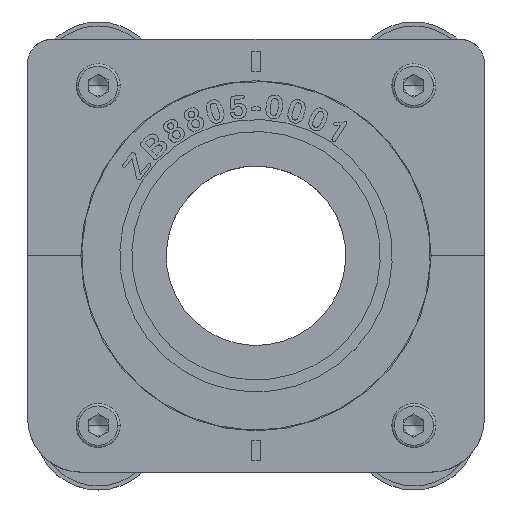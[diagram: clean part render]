
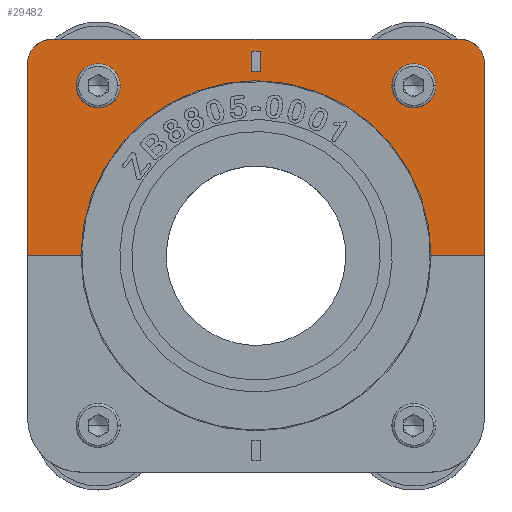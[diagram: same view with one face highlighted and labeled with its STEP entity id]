
A CAD part, top view. The second image highlights one B-rep face of the part: STEP entity #29482.
In plain terms, the highlighted planar face has unit normal (0, 0, 1).
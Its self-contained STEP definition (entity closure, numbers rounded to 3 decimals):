
#80 = CARTESIAN_POINT ( 'NONE',  ( 0.5, 25.5, 6.5 ) ) ;
#1757 = EDGE_CURVE ( 'NONE', #13576, #21069, #22899, .T. ) ;
#1773 = CARTESIAN_POINT ( 'NONE',  ( -0.5, 25.5, 6.5 ) ) ;
#2098 = CARTESIAN_POINT ( 'NONE',  ( 0.5, 23., 6.5 ) ) ;
#2169 = DIRECTION ( 'NONE',  ( 0., 1., 0. ) ) ;
#2532 = DIRECTION ( 'NONE',  ( 1., 0., 0. ) ) ;
#2697 = ORIENTED_EDGE ( 'NONE', *, *, #38111, .F. ) ;
#3017 = EDGE_CURVE ( 'NONE', #19251, #13576, #33467, .T. ) ;
#3385 = FACE_BOUND ( 'NONE', #16560, .T. ) ;
#3565 = VERTEX_POINT ( 'NONE', #38305 ) ;
#4004 = VERTEX_POINT ( 'NONE', #18199 ) ;
#4370 = CIRCLE ( 'NONE', #35717, 1.7 ) ;
#4993 = AXIS2_PLACEMENT_3D ( 'NONE', #33942, #27457, #24521 ) ;
#5277 = DIRECTION ( 'NONE',  ( 0., 0., 1. ) ) ;
#5392 = DIRECTION ( 'NONE',  ( -1., 0., 0. ) ) ;
#5638 = VECTOR ( 'NONE', #6406, 1000. ) ;
#5659 = CARTESIAN_POINT ( 'NONE',  ( 25.5, 24., 6.5 ) ) ;
#6405 = VECTOR ( 'NONE', #5392, 1000. ) ;
#6406 = DIRECTION ( 'NONE',  ( 1., 0., 0. ) ) ;
#7246 = LINE ( 'NONE', #22348, #8729 ) ;
#7989 = DIRECTION ( 'NONE',  ( 1., 0., 0. ) ) ;
#8022 = VERTEX_POINT ( 'NONE', #21797 ) ;
#8070 = CARTESIAN_POINT ( 'NONE',  ( 0.5, 23., 6.5 ) ) ;
#8383 = ORIENTED_EDGE ( 'NONE', *, *, #14637, .F. ) ;
#8729 = VECTOR ( 'NONE', #37063, 1000. ) ;
#8795 = DIRECTION ( 'NONE',  ( 1., 0., 0. ) ) ;
#9141 = DIRECTION ( 'NONE',  ( 0., 1., 0. ) ) ;
#10008 = VECTOR ( 'NONE', #2169, 1000. ) ;
#10196 = DIRECTION ( 'NONE',  ( -1., 0., 0. ) ) ;
#10390 = CARTESIAN_POINT ( 'NONE',  ( -21.85, 0., 6.5 ) ) ;
#10778 = AXIS2_PLACEMENT_3D ( 'NONE', #26932, #36766, #18889 ) ;
#10801 = VERTEX_POINT ( 'NONE', #26434 ) ;
#10838 = LINE ( 'NONE', #8070, #10008 ) ;
#10980 = CARTESIAN_POINT ( 'NONE',  ( -19.7, 21.2, 6.5 ) ) ;
#11176 = DIRECTION ( 'NONE',  ( 0., 0., 1. ) ) ;
#11548 = ORIENTED_EDGE ( 'NONE', *, *, #12473, .T. ) ;
#11732 = EDGE_CURVE ( 'NONE', #35702, #25680, #32401, .T. ) ;
#12318 = CARTESIAN_POINT ( 'NONE',  ( 28.5, 24., 6.5 ) ) ;
#12473 = EDGE_CURVE ( 'NONE', #24218, #10801, #38839, .T. ) ;
#12697 = DIRECTION ( 'NONE',  ( 1., 0., 0. ) ) ;
#13047 = DIRECTION ( 'NONE',  ( 0., -1., 0. ) ) ;
#13188 = CARTESIAN_POINT ( 'NONE',  ( 18., 21.2, 6.5 ) ) ;
#13576 = VERTEX_POINT ( 'NONE', #15672 ) ;
#13715 = CARTESIAN_POINT ( 'NONE',  ( -28.5, 24., 6.5 ) ) ;
#13746 = CARTESIAN_POINT ( 'NONE',  ( 0., 0., 6.5 ) ) ;
#13953 = DIRECTION ( 'NONE',  ( 0., 0., 1. ) ) ;
#13977 = ORIENTED_EDGE ( 'NONE', *, *, #25682, .F. ) ;
#14543 = AXIS2_PLACEMENT_3D ( 'NONE', #23696, #27423, #8795 ) ;
#14590 = AXIS2_PLACEMENT_3D ( 'NONE', #27452, #34328, #10196 ) ;
#14637 = EDGE_CURVE ( 'NONE', #34056, #19251, #32286, .T. ) ;
#14708 = VECTOR ( 'NONE', #9141, 1000. ) ;
#15029 = LINE ( 'NONE', #26994, #5638 ) ;
#15366 = PLANE ( 'NONE',  #10778 ) ;
#15388 = VERTEX_POINT ( 'NONE', #18617 ) ;
#15672 = CARTESIAN_POINT ( 'NONE',  ( -0.5, 23., 6.5 ) ) ;
#15784 = ORIENTED_EDGE ( 'NONE', *, *, #16597, .T. ) ;
#16395 = CARTESIAN_POINT ( 'NONE',  ( -21.4, 21.2, 6.5 ) ) ;
#16410 = CIRCLE ( 'NONE', #30229, 21.85 ) ;
#16560 = EDGE_LOOP ( 'NONE', ( #24171, #38748, #8383, #26387 ) ) ;
#16597 = EDGE_CURVE ( 'NONE', #15388, #24218, #30823, .T. ) ;
#17027 = CARTESIAN_POINT ( 'NONE',  ( 28.5, 0., 6.5 ) ) ;
#17885 = ORIENTED_EDGE ( 'NONE', *, *, #38150, .T. ) ;
#18167 = LINE ( 'NONE', #38478, #35859 ) ;
#18199 = CARTESIAN_POINT ( 'NONE',  ( 21.4, 21.2, 6.5 ) ) ;
#18345 = EDGE_CURVE ( 'NONE', #38338, #8022, #27077, .T. ) ;
#18351 = CARTESIAN_POINT ( 'NONE',  ( -0.5, 23., 6.5 ) ) ;
#18617 = CARTESIAN_POINT ( 'NONE',  ( -25.5, 27., 6.5 ) ) ;
#18647 = EDGE_CURVE ( 'NONE', #35428, #35702, #26974, .T. ) ;
#18889 = DIRECTION ( 'NONE',  ( -1., 0., 0. ) ) ;
#18924 = VECTOR ( 'NONE', #26280, 1000. ) ;
#19212 = DIRECTION ( 'NONE',  ( -1., 0., 0. ) ) ;
#19251 = VERTEX_POINT ( 'NONE', #1773 ) ;
#19610 = DIRECTION ( 'NONE',  ( 1., 0., 0. ) ) ;
#21069 = VERTEX_POINT ( 'NONE', #2098 ) ;
#21073 = FACE_BOUND ( 'NONE', #28145, .T. ) ;
#21797 = CARTESIAN_POINT ( 'NONE',  ( -18., 21.2, 6.5 ) ) ;
#21874 = ORIENTED_EDGE ( 'NONE', *, *, #11732, .T. ) ;
#22063 = AXIS2_PLACEMENT_3D ( 'NONE', #27858, #27449, #19212 ) ;
#22348 = CARTESIAN_POINT ( 'NONE',  ( -28.5, 27., 6.5 ) ) ;
#22861 = VERTEX_POINT ( 'NONE', #10390 ) ;
#22899 = LINE ( 'NONE', #34869, #35317 ) ;
#22900 = EDGE_CURVE ( 'NONE', #27756, #4004, #30251, .T. ) ;
#23244 = CARTESIAN_POINT ( 'NONE',  ( 0.5, 25.5, 6.5 ) ) ;
#23308 = ORIENTED_EDGE ( 'NONE', *, *, #18345, .F. ) ;
#23696 = CARTESIAN_POINT ( 'NONE',  ( -19.7, 21.2, 6.5 ) ) ;
#24171 = ORIENTED_EDGE ( 'NONE', *, *, #1757, .F. ) ;
#24218 = VERTEX_POINT ( 'NONE', #13715 ) ;
#24521 = DIRECTION ( 'NONE',  ( -1., 0., 0. ) ) ;
#24787 = FACE_OUTER_BOUND ( 'NONE', #34171, .T. ) ;
#25399 = EDGE_CURVE ( 'NONE', #21069, #34056, #10838, .T. ) ;
#25567 = EDGE_CURVE ( 'NONE', #4004, #27756, #35050, .T. ) ;
#25680 = VERTEX_POINT ( 'NONE', #37882 ) ;
#25682 = EDGE_CURVE ( 'NONE', #8022, #38338, #4370, .T. ) ;
#26280 = DIRECTION ( 'NONE',  ( 0., -1., 0. ) ) ;
#26387 = ORIENTED_EDGE ( 'NONE', *, *, #25399, .F. ) ;
#26434 = CARTESIAN_POINT ( 'NONE',  ( -28.5, 0., 6.5 ) ) ;
#26694 = ORIENTED_EDGE ( 'NONE', *, *, #31572, .T. ) ;
#26932 = CARTESIAN_POINT ( 'NONE',  ( 0., 0., 6.5 ) ) ;
#26974 = LINE ( 'NONE', #36408, #14708 ) ;
#26994 = CARTESIAN_POINT ( 'NONE',  ( -28.5, 0., 6.5 ) ) ;
#27077 = CIRCLE ( 'NONE', #14543, 1.7 ) ;
#27423 = DIRECTION ( 'NONE',  ( 0., 0., 1. ) ) ;
#27449 = DIRECTION ( 'NONE',  ( 0., 0., 1. ) ) ;
#27452 = CARTESIAN_POINT ( 'NONE',  ( 19.7, 21.2, 6.5 ) ) ;
#27457 = DIRECTION ( 'NONE',  ( 0., 0., -1. ) ) ;
#27719 = ORIENTED_EDGE ( 'NONE', *, *, #22900, .T. ) ;
#27756 = VERTEX_POINT ( 'NONE', #13188 ) ;
#27858 = CARTESIAN_POINT ( 'NONE',  ( -25.5, 24., 6.5 ) ) ;
#28145 = EDGE_LOOP ( 'NONE', ( #13977, #23308 ) ) ;
#29101 = ORIENTED_EDGE ( 'NONE', *, *, #25567, .T. ) ;
#29482 = ADVANCED_FACE ( 'NONE', ( #33225, #3385, #24787, #21073 ), #15366, .F. ) ;
#30229 = AXIS2_PLACEMENT_3D ( 'NONE', #13746, #13953, #2532 ) ;
#30251 = CIRCLE ( 'NONE', #14590, 1.7 ) ;
#30447 = VECTOR ( 'NONE', #13047, 1000. ) ;
#30507 = ORIENTED_EDGE ( 'NONE', *, *, #34060, .T. ) ;
#30823 = CIRCLE ( 'NONE', #22063, 3. ) ;
#31572 = EDGE_CURVE ( 'NONE', #25680, #15388, #7246, .T. ) ;
#32286 = LINE ( 'NONE', #23244, #6405 ) ;
#32401 = CIRCLE ( 'NONE', #37424, 3. ) ;
#33225 = FACE_BOUND ( 'NONE', #35869, .T. ) ;
#33467 = LINE ( 'NONE', #18351, #30447 ) ;
#33868 = ORIENTED_EDGE ( 'NONE', *, *, #18647, .T. ) ;
#33942 = CARTESIAN_POINT ( 'NONE',  ( 19.7, 21.2, 6.5 ) ) ;
#34056 = VERTEX_POINT ( 'NONE', #80 ) ;
#34060 = EDGE_CURVE ( 'NONE', #10801, #22861, #15029, .T. ) ;
#34171 = EDGE_LOOP ( 'NONE', ( #26694, #15784, #11548, #30507, #2697, #17885, #33868, #21874 ) ) ;
#34328 = DIRECTION ( 'NONE',  ( 0., 0., -1. ) ) ;
#34869 = CARTESIAN_POINT ( 'NONE',  ( 0.5, 23., 6.5 ) ) ;
#35050 = CIRCLE ( 'NONE', #4993, 1.7 ) ;
#35317 = VECTOR ( 'NONE', #7989, 1000. ) ;
#35428 = VERTEX_POINT ( 'NONE', #17027 ) ;
#35689 = DIRECTION ( 'NONE',  ( -1., 0., 0. ) ) ;
#35702 = VERTEX_POINT ( 'NONE', #12318 ) ;
#35717 = AXIS2_PLACEMENT_3D ( 'NONE', #10980, #5277, #19610 ) ;
#35859 = VECTOR ( 'NONE', #12697, 1000. ) ;
#35869 = EDGE_LOOP ( 'NONE', ( #29101, #27719 ) ) ;
#36408 = CARTESIAN_POINT ( 'NONE',  ( 28.5, 0., 6.5 ) ) ;
#36766 = DIRECTION ( 'NONE',  ( 0., 0., -1. ) ) ;
#37063 = DIRECTION ( 'NONE',  ( -1., 0., 0. ) ) ;
#37424 = AXIS2_PLACEMENT_3D ( 'NONE', #5659, #11176, #35689 ) ;
#37882 = CARTESIAN_POINT ( 'NONE',  ( 25.5, 27., 6.5 ) ) ;
#38111 = EDGE_CURVE ( 'NONE', #3565, #22861, #16410, .T. ) ;
#38150 = EDGE_CURVE ( 'NONE', #3565, #35428, #18167, .T. ) ;
#38305 = CARTESIAN_POINT ( 'NONE',  ( 21.85, 0., 6.5 ) ) ;
#38338 = VERTEX_POINT ( 'NONE', #16395 ) ;
#38471 = CARTESIAN_POINT ( 'NONE',  ( -28.5, 0., 6.5 ) ) ;
#38478 = CARTESIAN_POINT ( 'NONE',  ( -28.5, 0., 6.5 ) ) ;
#38748 = ORIENTED_EDGE ( 'NONE', *, *, #3017, .F. ) ;
#38839 = LINE ( 'NONE', #38471, #18924 ) ;
